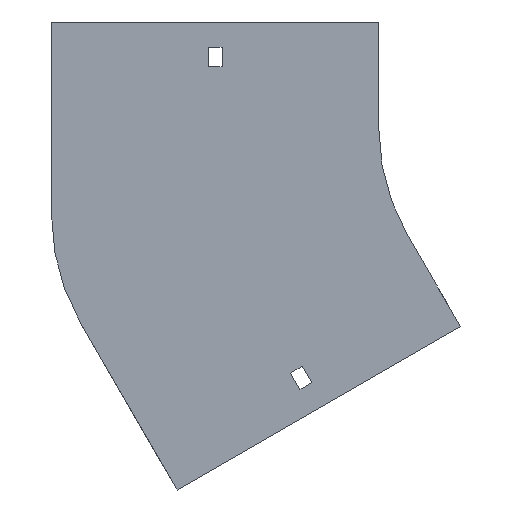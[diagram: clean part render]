
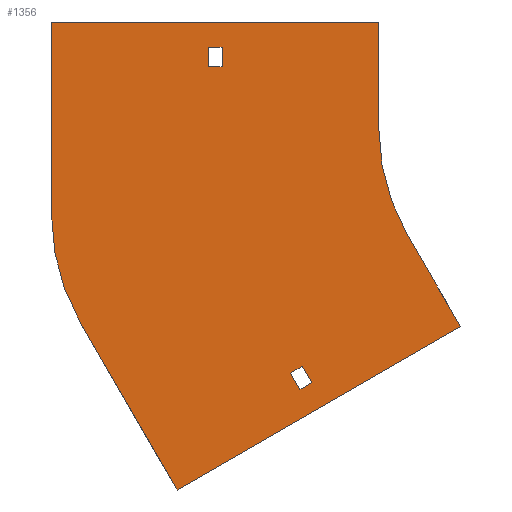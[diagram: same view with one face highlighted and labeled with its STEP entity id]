
A CAD part, front view. The second image highlights one B-rep face of the part: STEP entity #1356.
In plain terms, the highlighted planar face has unit normal (0, -1, 0).
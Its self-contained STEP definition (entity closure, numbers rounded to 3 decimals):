
#1 = VERTEX_POINT ( 'NONE', #783 ) ;
#6 = VECTOR ( 'NONE', #526, 1000. ) ;
#15 = EDGE_CURVE ( 'NONE', #190, #263, #39, .T. ) ;
#19 = CARTESIAN_POINT ( 'NONE',  ( -100., 0., 0. ) ) ;
#28 = VECTOR ( 'NONE', #298, 1000. ) ;
#36 = EDGE_CURVE ( 'NONE', #214, #948, #1211, .T. ) ;
#38 = DIRECTION ( 'NONE',  ( 1., 0., 0. ) ) ;
#39 = LINE ( 'NONE', #1300, #673 ) ;
#42 = DIRECTION ( 'NONE',  ( 0., 0., 1. ) ) ;
#44 = CARTESIAN_POINT ( 'NONE',  ( -61.603, 0., -93.301 ) ) ;
#48 = LINE ( 'NONE', #917, #1061 ) ;
#52 = CARTESIAN_POINT ( 'NONE',  ( -137.101, 0., -123.034 ) ) ;
#65 = CARTESIAN_POINT ( 'NONE',  ( -180.25, 0., 29. ) ) ;
#68 = CARTESIAN_POINT ( 'NONE',  ( -254., 0., 50. ) ) ;
#72 = VERTEX_POINT ( 'NONE', #1341 ) ;
#79 = CARTESIAN_POINT ( 'NONE',  ( -254., 0., 50. ) ) ;
#80 = EDGE_CURVE ( 'NONE', #345, #495, #217, .T. ) ;
#105 = VECTOR ( 'NONE', #38, 1000. ) ;
#118 = DIRECTION ( 'NONE',  ( 0., -1., 0. ) ) ;
#143 = CARTESIAN_POINT ( 'NONE',  ( 0., 0., 0. ) ) ;
#150 = VECTOR ( 'NONE', #1137, 1000. ) ;
#157 = CARTESIAN_POINT ( 'NONE',  ( -194.97, 0., -170.301 ) ) ;
#160 = LINE ( 'NONE', #44, #1327 ) ;
#162 = EDGE_CURVE ( 'NONE', #1073, #72, #722, .T. ) ;
#165 = VECTOR ( 'NONE', #983, 1000. ) ;
#183 = ORIENTED_EDGE ( 'NONE', *, *, #999, .T. ) ;
#185 = EDGE_CURVE ( 'NONE', #72, #1364, #636, .T. ) ;
#190 = VERTEX_POINT ( 'NONE', #403 ) ;
#209 = VERTEX_POINT ( 'NONE', #295 ) ;
#214 = VERTEX_POINT ( 'NONE', #397 ) ;
#217 = CIRCLE ( 'NONE', #1053, 100. ) ;
#218 = CARTESIAN_POINT ( 'NONE',  ( -61.603, 0., -93.301 ) ) ;
#220 = ORIENTED_EDGE ( 'NONE', *, *, #1024, .T. ) ;
#231 = EDGE_LOOP ( 'NONE', ( #1056, #1095, #524, #1365 ) ) ;
#261 = FACE_BOUND ( 'NONE', #231, .T. ) ;
#263 = VERTEX_POINT ( 'NONE', #19 ) ;
#267 = LINE ( 'NONE', #618, #28 ) ;
#295 = CARTESIAN_POINT ( 'NONE',  ( -173.75, 0., 29. ) ) ;
#297 = CARTESIAN_POINT ( 'NONE',  ( -141.601, 0., -115.24 ) ) ;
#298 = DIRECTION ( 'NONE',  ( -0.5, 0., 0.866 ) ) ;
#309 = DIRECTION ( 'NONE',  ( -0.5, 0., 0.866 ) ) ;
#345 = VERTEX_POINT ( 'NONE', #639 ) ;
#360 = ORIENTED_EDGE ( 'NONE', *, *, #80, .F. ) ;
#362 = DIRECTION ( 'NONE',  ( 0., 1., 0. ) ) ;
#372 = DIRECTION ( 'NONE',  ( 0., 0., -1. ) ) ;
#388 = EDGE_CURVE ( 'NONE', #948, #1386, #160, .T. ) ;
#397 = CARTESIAN_POINT ( 'NONE',  ( -86.603, 0., -50. ) ) ;
#403 = CARTESIAN_POINT ( 'NONE',  ( -100., 0., 50. ) ) ;
#418 = ORIENTED_EDGE ( 'NONE', *, *, #712, .T. ) ;
#427 = DIRECTION ( 'NONE',  ( 0.866, 0., 0.5 ) ) ;
#469 = DIRECTION ( 'NONE',  ( 1., 0., 0. ) ) ;
#475 = CARTESIAN_POINT ( 'NONE',  ( -254., 0., -41.264 ) ) ;
#488 = ORIENTED_EDGE ( 'NONE', *, *, #1143, .F. ) ;
#495 = VERTEX_POINT ( 'NONE', #1109 ) ;
#518 = EDGE_CURVE ( 'NONE', #209, #1403, #716, .T. ) ;
#523 = EDGE_CURVE ( 'NONE', #263, #214, #1404, .T. ) ;
#524 = ORIENTED_EDGE ( 'NONE', *, *, #567, .F. ) ;
#526 = DIRECTION ( 'NONE',  ( 0., 0., 1. ) ) ;
#532 = VECTOR ( 'NONE', #674, 1000. ) ;
#545 = VECTOR ( 'NONE', #1302, 1000. ) ;
#549 = EDGE_LOOP ( 'NONE', ( #183, #418, #220, #973 ) ) ;
#555 = CARTESIAN_POINT ( 'NONE',  ( -173.75, 0., 38. ) ) ;
#556 = EDGE_CURVE ( 'NONE', #495, #927, #1240, .T. ) ;
#558 = DIRECTION ( 'NONE',  ( 0., 0., -1. ) ) ;
#567 = EDGE_CURVE ( 'NONE', #1364, #621, #48, .T. ) ;
#568 = LINE ( 'NONE', #998, #545 ) ;
#588 = CARTESIAN_POINT ( 'NONE',  ( 0., 0., 0. ) ) ;
#589 = DIRECTION ( 'NONE',  ( 0., 0., -1. ) ) ;
#591 = ORIENTED_EDGE ( 'NONE', *, *, #1399, .F. ) ;
#618 = CARTESIAN_POINT ( 'NONE',  ( -194.97, 0., -170.301 ) ) ;
#621 = VERTEX_POINT ( 'NONE', #297 ) ;
#632 = VECTOR ( 'NONE', #42, 1000. ) ;
#636 = LINE ( 'NONE', #1050, #1097 ) ;
#639 = CARTESIAN_POINT ( 'NONE',  ( -240.603, 0., -91.264 ) ) ;
#662 = LINE ( 'NONE', #974, #6 ) ;
#673 = VECTOR ( 'NONE', #558, 1000. ) ;
#674 = DIRECTION ( 'NONE',  ( 0.5, 0., -0.866 ) ) ;
#677 = VERTEX_POINT ( 'NONE', #555 ) ;
#693 = CARTESIAN_POINT ( 'NONE',  ( -180.25, 0., 29. ) ) ;
#699 = CARTESIAN_POINT ( 'NONE',  ( -135.972, 0., -111.99 ) ) ;
#706 = FACE_OUTER_BOUND ( 'NONE', #1195, .T. ) ;
#712 = EDGE_CURVE ( 'NONE', #1, #677, #1330, .T. ) ;
#716 = LINE ( 'NONE', #65, #150 ) ;
#722 = LINE ( 'NONE', #1150, #1236 ) ;
#783 = CARTESIAN_POINT ( 'NONE',  ( -180.25, 0., 38. ) ) ;
#835 = ORIENTED_EDGE ( 'NONE', *, *, #556, .F. ) ;
#837 = ORIENTED_EDGE ( 'NONE', *, *, #36, .F. ) ;
#868 = LINE ( 'NONE', #1291, #165 ) ;
#908 = DIRECTION ( 'NONE',  ( -0.866, 0., -0.5 ) ) ;
#913 = AXIS2_PLACEMENT_3D ( 'NONE', #588, #1034, #372 ) ;
#917 = CARTESIAN_POINT ( 'NONE',  ( -141.601, 0., -115.24 ) ) ;
#927 = VERTEX_POINT ( 'NONE', #79 ) ;
#948 = VERTEX_POINT ( 'NONE', #218 ) ;
#973 = ORIENTED_EDGE ( 'NONE', *, *, #518, .T. ) ;
#974 = CARTESIAN_POINT ( 'NONE',  ( -180.25, 0., 29. ) ) ;
#983 = DIRECTION ( 'NONE',  ( 0., 0., -1. ) ) ;
#998 = CARTESIAN_POINT ( 'NONE',  ( -141.601, 0., -115.24 ) ) ;
#999 = EDGE_CURVE ( 'NONE', #1403, #1, #662, .T. ) ;
#1022 = CARTESIAN_POINT ( 'NONE',  ( -154., 0., -41.264 ) ) ;
#1024 = EDGE_CURVE ( 'NONE', #677, #209, #868, .T. ) ;
#1034 = DIRECTION ( 'NONE',  ( 0., -1., 0. ) ) ;
#1050 = CARTESIAN_POINT ( 'NONE',  ( -135.972, 0., -111.99 ) ) ;
#1053 = AXIS2_PLACEMENT_3D ( 'NONE', #1022, #362, #1256 ) ;
#1056 = ORIENTED_EDGE ( 'NONE', *, *, #162, .F. ) ;
#1061 = VECTOR ( 'NONE', #908, 1000. ) ;
#1073 = VERTEX_POINT ( 'NONE', #52 ) ;
#1095 = ORIENTED_EDGE ( 'NONE', *, *, #1320, .F. ) ;
#1097 = VECTOR ( 'NONE', #309, 1000. ) ;
#1103 = ORIENTED_EDGE ( 'NONE', *, *, #523, .F. ) ;
#1109 = CARTESIAN_POINT ( 'NONE',  ( -254., 0., -41.264 ) ) ;
#1137 = DIRECTION ( 'NONE',  ( -1., 0., 0. ) ) ;
#1140 = ORIENTED_EDGE ( 'NONE', *, *, #388, .F. ) ;
#1143 = EDGE_CURVE ( 'NONE', #1386, #345, #267, .T. ) ;
#1145 = LINE ( 'NONE', #68, #1146 ) ;
#1146 = VECTOR ( 'NONE', #469, 1000. ) ;
#1150 = CARTESIAN_POINT ( 'NONE',  ( -137.101, 0., -123.034 ) ) ;
#1159 = ORIENTED_EDGE ( 'NONE', *, *, #15, .F. ) ;
#1195 = EDGE_LOOP ( 'NONE', ( #591, #835, #360, #488, #1140, #837, #1103, #1159 ) ) ;
#1204 = CARTESIAN_POINT ( 'NONE',  ( -86.603, 0., -50. ) ) ;
#1211 = LINE ( 'NONE', #1204, #532 ) ;
#1220 = AXIS2_PLACEMENT_3D ( 'NONE', #143, #118, #589 ) ;
#1236 = VECTOR ( 'NONE', #427, 1000. ) ;
#1240 = LINE ( 'NONE', #475, #632 ) ;
#1253 = FACE_BOUND ( 'NONE', #549, .T. ) ;
#1256 = DIRECTION ( 'NONE',  ( 0., 0., 1. ) ) ;
#1291 = CARTESIAN_POINT ( 'NONE',  ( -173.75, 0., 29. ) ) ;
#1300 = CARTESIAN_POINT ( 'NONE',  ( -100., 0., 50. ) ) ;
#1302 = DIRECTION ( 'NONE',  ( 0.5, 0., -0.866 ) ) ;
#1317 = CARTESIAN_POINT ( 'NONE',  ( -180.25, 0., 38. ) ) ;
#1320 = EDGE_CURVE ( 'NONE', #621, #1073, #568, .T. ) ;
#1327 = VECTOR ( 'NONE', #1329, 1000. ) ;
#1329 = DIRECTION ( 'NONE',  ( -0.866, 0., -0.5 ) ) ;
#1330 = LINE ( 'NONE', #1317, #105 ) ;
#1341 = CARTESIAN_POINT ( 'NONE',  ( -131.472, 0., -119.784 ) ) ;
#1344 = PLANE ( 'NONE',  #913 ) ;
#1356 = ADVANCED_FACE ( 'NONE', ( #1253, #706, #261 ), #1344, .T. ) ;
#1364 = VERTEX_POINT ( 'NONE', #699 ) ;
#1365 = ORIENTED_EDGE ( 'NONE', *, *, #185, .F. ) ;
#1386 = VERTEX_POINT ( 'NONE', #157 ) ;
#1399 = EDGE_CURVE ( 'NONE', #927, #190, #1145, .T. ) ;
#1403 = VERTEX_POINT ( 'NONE', #693 ) ;
#1404 = CIRCLE ( 'NONE', #1220, 100. ) ;
